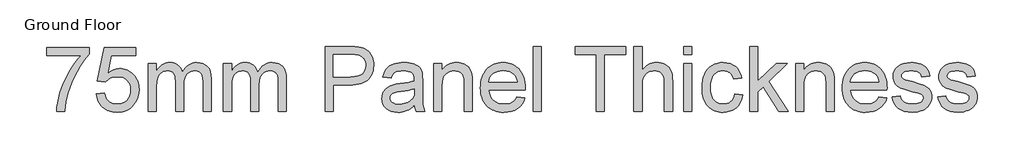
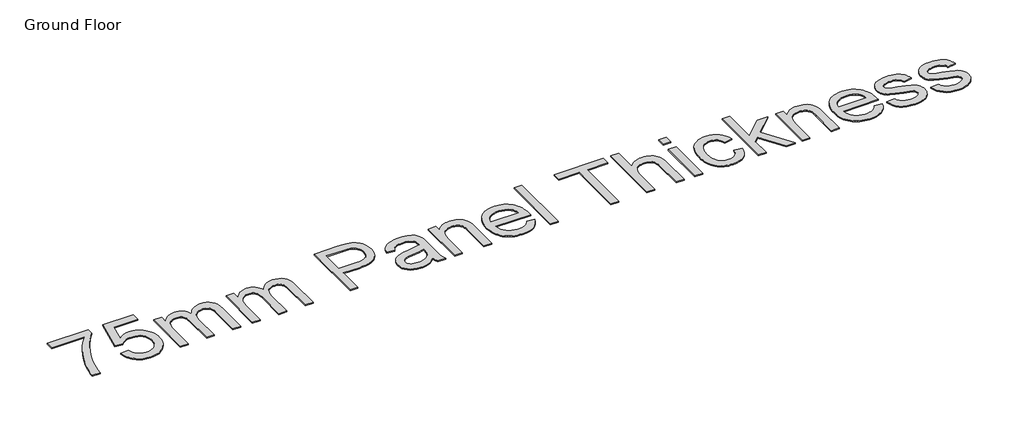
# One storey, part 7 of 12: 1 proxy.
"""IFC4 building model written with IfcOpenShell, lengths in millimetres."""

from ifc_helpers import new_model, si_unit, origin, origin_with_axes, place, context, project, spatial, polyline, outline, extrude, element, save

model = new_model("IFC4")

# Units and contexts
model_context = context("Model", 3, world=origin())
ifc_project = project(units=[si_unit("LENGTHUNIT", "METRE", prefix="MILLI")], contexts=[model_context])

# Site, building, storey
site = spatial("IfcSite", under=ifc_project)
building = spatial("IfcBuilding", under=site)
storey = spatial("IfcBuildingStorey", under=building, Name="Ground Floor", Elevation=0.0)

# Proxy
placement = place(None, origin())
element("IfcBuildingElementProxy", 1, Name="1200mm Arial", ObjectType="1200mm Arial", at=placement, inside=storey, context=model_context, shape_type="SweptSolid", body=[
    extrude(outline(polyline([(26143.8631446, 24020.3942503), (26143.8631446, 24167.3033412), (26915.1358719, 24167.3033412), (26915.1358719, 24048.5135684), (26860.0359962, 23983.6759442), (26805.205119, 23909.3875031), (26750.6432405, 23825.6482453), (26696.3503605, 23732.4581707), (26645.2675303, 23633.8522581), (26600.3358009, 23533.8654861), (26561.5551723, 23432.4978547), (26528.9256446, 23329.7493639), (26509.4860139, 23255.1291579), (26493.9199628, 23177.0299037), (26482.2274912, 23095.4516011), (26474.4085992, 23010.3942503), (26327.4995082, 23010.3942503), (26332.1173172, 23082.5396693), (26343.3883577, 23161.8225173), (26361.3126297, 23248.2427943), (26385.8901332, 23341.8005003), (26416.8339365, 23438.0571586), (26453.8571077, 23532.5742929), (26496.9596467, 23625.351903), (26546.1415537, 23716.3899889), (26599.1880736, 23803.0164981), (26653.8844514, 23882.5593781), (26710.2306872, 23955.0186288), (26768.226781, 24020.3942503), (26143.8631446, 24020.3942503)])), origin_with_axes(), (0.0, 0.0, 1.0), 20.0),
    extrude(outline(polyline([(27043.6813264, 23322.5760684), (27190.5904173, 23340.9397048), (27201.5655594, 23293.7125209), (27217.5620082, 23252.7440372), (27238.5797639, 23218.0342538), (27264.6188264, 23189.5831707), (27295.625396, 23167.4266544), (27331.545673, 23151.6005713), (27372.3796574, 23142.1049214), (27418.1273492, 23138.9397048), (27474.0790537, 23143.3423149), (27523.4313264, 23156.5501452), (27566.1841673, 23178.5631956), (27602.3375764, 23209.3814662), (27631.084558, 23247.4806317), (27651.6181162, 23291.3363667), (27663.9382511, 23340.9486714), (27668.0449628, 23396.3175457), (27664.1982831, 23448.6467361), (27652.658244, 23495.1655571), (27633.4248456, 23535.8740088), (27606.4980878, 23570.7720912), (27571.7883044, 23598.7658767), (27529.2058293, 23618.7614378), (27478.7506624, 23630.7587744), (27420.4228037, 23634.7578866), (27383.0947675, 23633.1618284), (27349.1561134, 23628.3736537), (27318.6068413, 23620.3933625), (27291.4469514, 23609.2209548), (27245.3585281, 23579.8821764), (27208.9540537, 23542.9397048), (27062.0449628, 23561.3033412), (27190.5904173, 24167.3033412), (27759.8631446, 24167.3033412), (27759.8631446, 24020.3942503), (27309.3801901, 24020.3942503), (27246.5421219, 23696.7351594), (27298.3871148, 23733.8928298), (27351.4874344, 23760.434023), (27405.8430807, 23776.3587389), (27461.4540537, 23781.6669775), (27497.9549193, 23780.0216029), (27532.9987092, 23775.085479), (27566.5854236, 23766.8586057), (27598.7150622, 23755.3409832), (27629.3876253, 23740.5326114), (27658.6031127, 23722.4334903), (27686.3615244, 23701.0436199), (27712.6628605, 23676.3630003), (27736.6373589, 23649.0955109), (27757.4152575, 23619.9450315), (27774.9965564, 23588.9115621), (27789.3812554, 23555.9951025), (27800.5693547, 23521.195653), (27808.5608541, 23484.5132133), (27813.3557538, 23445.9477836), (27814.9540537, 23405.4993639), (27809.1974841, 23329.3906991), (27791.9277753, 23258.590273), (27763.1449273, 23193.0980855), (27722.8489401, 23132.9141366), (27693.5998279, 23099.894561), (27661.8041957, 23071.2775954), (27627.4620438, 23047.06324), (27590.5733719, 23027.2514946), (27551.1381801, 23011.8423593), (27509.1564685, 23000.8358341), (27464.6282369, 22994.2319189), (27417.5534855, 22992.0306139), (27341.7407192, 22997.6885507), (27306.5848465, 23004.7609717), (27273.2626475, 23014.6623611), (27241.7741221, 23027.3927188), (27212.1192703, 23042.952045), (27184.2980922, 23061.3403396), (27158.3105878, 23082.5576025), (27134.5826714, 23106.1106698), (27113.5402575, 23131.5063774), (27095.1833461, 23158.7447252), (27079.5119372, 23187.8257133), (27056.2256269, 23251.5156103), (27043.6813264, 23322.5760684)])), origin_with_axes(), (0.0, 0.0, 1.0), 20.0),
    extrude(outline(polyline([(27980.226781, 23010.3942503), (27980.226781, 23873.4851594), (28127.1358719, 23873.4851594), (28127.1358719, 23731.4539094), (28147.6514969, 23765.8408944), (28171.3233719, 23796.6950315), (28198.1514969, 23824.0163206), (28228.1358719, 23847.8047616), (28260.7922994, 23867.0740265), (28295.6365821, 23880.8377872), (28332.6687199, 23889.0960436), (28371.8887128, 23891.8487957), (28414.7670864, 23889.0422439), (28453.592548, 23880.6225883), (28488.3650977, 23866.5898291), (28519.0847355, 23846.9439662), (28545.6617952, 23822.24093), (28568.0066105, 23793.0366508), (28586.1191815, 23759.3311288), (28599.9995082, 23721.1243639), (28625.8323385, 23761.1379026), (28653.5481588, 23795.8163028), (28683.1469692, 23825.1595645), (28714.6287696, 23849.1676878), (28747.9935601, 23867.8406725), (28783.2413406, 23881.1785187), (28820.3721112, 23889.1812265), (28859.3858719, 23891.8487957), (28918.197928, 23887.4103192), (28969.8187554, 23874.0948895), (29014.2483541, 23851.9025067), (29051.4867242, 23820.8331707), (29080.9241354, 23780.5282169), (29101.9508577, 23730.6289804), (29114.5668911, 23671.1354612), (29118.7722355, 23602.0476594), (29118.7722355, 23010.3942503), (28971.8631446, 23010.3942503), (28971.8631446, 23538.9226594), (28968.4558293, 23612.1978724), (28958.2338832, 23661.5860116), (28950.0383932, 23679.4026842), (28939.0811844, 23695.4080997), (28925.3622568, 23709.6022581), (28908.8816105, 23721.9851594), (28890.240009, 23732.027773), (28870.0382156, 23739.2010684), (28824.9540537, 23744.9397048), (28783.3220402, 23741.2633909), (28745.3663406, 23730.2344491), (28711.086955, 23711.8528795), (28680.4838832, 23686.1186821), (28655.3145828, 23652.2786608), (28637.3365111, 23609.5796196), (28626.549668, 23558.0215585), (28622.9540537, 23497.6044775), (28622.9540537, 23010.3942503), (28476.0449628, 23010.3942503), (28476.0449628, 23555.277773), (28473.919874, 23599.7880713), (28467.5446077, 23638.3445344), (28456.9191638, 23670.9471622), (28442.0435423, 23697.5959548), (28422.3259465, 23718.3088454), (28397.1745793, 23733.1037673), (28366.5894408, 23741.9807204), (28330.570531, 23744.9397048), (28301.71595, 23742.9670486), (28273.9732298, 23737.0490798), (28247.3423705, 23727.1857986), (28221.8233719, 23713.3772048), (28198.5818946, 23695.7667645), (28178.7835992, 23674.4979434), (28162.4284855, 23649.5707417), (28149.5165537, 23620.9851594), (28139.7250054, 23587.216871), (28132.7310423, 23546.7415514), (28127.1358719, 23445.6698184), (28127.1358719, 23010.3942503), (27980.226781, 23010.3942503)])), origin_with_axes(), (0.0, 0.0, 1.0), 20.0),
    extrude(outline(polyline([(29339.1358719, 23010.3942503), (29339.1358719, 23873.4851594), (29486.0449628, 23873.4851594), (29486.0449628, 23731.4539094), (29506.5605878, 23765.8408944), (29530.2324628, 23796.6950315), (29557.0605878, 23824.0163206), (29587.0449628, 23847.8047616), (29619.7013904, 23867.0740265), (29654.545673, 23880.8377872), (29691.5778108, 23889.0960436), (29730.7978037, 23891.8487957), (29773.6761773, 23889.0422439), (29812.5016389, 23880.6225883), (29847.2741886, 23866.5898291), (29877.9938264, 23846.9439662), (29904.5708861, 23822.24093), (29926.9157014, 23793.0366508), (29945.0282725, 23759.3311288), (29958.9085992, 23721.1243639), (29984.7414294, 23761.1379026), (30012.4572497, 23795.8163028), (30042.0560601, 23825.1595645), (30073.5378605, 23849.1676878), (30106.902651, 23867.8406725), (30142.1504315, 23881.1785187), (30179.2812021, 23889.1812265), (30218.2949628, 23891.8487957), (30277.1070189, 23887.4103192), (30328.7278463, 23874.0948895), (30373.157445, 23851.9025067), (30410.3958151, 23820.8331707), (30439.8332263, 23780.5282169), (30460.8599486, 23730.6289804), (30473.475982, 23671.1354612), (30477.6813264, 23602.0476594), (30477.6813264, 23010.3942503), (30330.7722355, 23010.3942503), (30330.7722355, 23538.9226594), (30327.3649202, 23612.1978724), (30317.1429742, 23661.5860116), (30308.9474841, 23679.4026842), (30297.9902753, 23695.4080997), (30284.2713477, 23709.6022581), (30267.7907014, 23721.9851594), (30249.1490999, 23732.027773), (30228.9473065, 23739.2010684), (30183.8631446, 23744.9397048), (30142.2311311, 23741.2633909), (30104.2754315, 23730.2344491), (30069.9960459, 23711.8528795), (30039.3929742, 23686.1186821), (30014.2236737, 23652.2786608), (29996.245602, 23609.5796196), (29985.458759, 23558.0215585), (29981.8631446, 23497.6044775), (29981.8631446, 23010.3942503), (29834.9540537, 23010.3942503), (29834.9540537, 23555.277773), (29832.8289649, 23599.7880713), (29826.4536986, 23638.3445344), (29815.8282547, 23670.9471622), (29800.9526332, 23697.5959548), (29781.2350374, 23718.3088454), (29756.0836702, 23733.1037673), (29725.4985317, 23741.9807204), (29689.4796219, 23744.9397048), (29660.6250409, 23742.9670486), (29632.8823207, 23737.0490798), (29606.2514614, 23727.1857986), (29580.7324628, 23713.3772048), (29557.4909855, 23695.7667645), (29537.6926901, 23674.4979434), (29521.3375764, 23649.5707417), (29508.4256446, 23620.9851594), (29498.6340963, 23587.216871), (29491.6401332, 23546.7415514), (29486.0449628, 23445.6698184), (29486.0449628, 23010.3942503), (29339.1358719, 23010.3942503)])), origin_with_axes(), (0.0, 0.0, 1.0), 20.0),
    extrude(outline(polyline([(31175.4995082, 23010.3942503), (31175.4995082, 24185.6669775), (31611.0620082, 24185.6669775), (31712.492406, 24182.8693923), (31786.664281, 24174.4766366), (31827.5430984, 24165.6624498), (31864.9608009, 24153.5664804), (31898.9173882, 24138.1887282), (31929.4128605, 24119.5291934), (31956.7700161, 24097.2023113), (31981.3116531, 24070.8225173), (32003.0377717, 24040.3898113), (32021.9483719, 24005.9041934), (32037.2633577, 23968.5044243), (32048.2026332, 23929.3292645), (32054.7661986, 23888.378714), (32056.9540537, 23845.652773), (32051.0450516, 23773.507354), (32043.6587989, 23739.600083), (32033.3180452, 23707.1364378), (32020.0227904, 23676.1164182), (32003.7730345, 23646.5400244), (31984.5687776, 23618.4072563), (31962.4100196, 23591.7181139), (31936.3956153, 23567.3737425), (31905.6244195, 23546.2752872), (31870.0964321, 23528.4227481), (31829.8116531, 23513.8161253), (31784.7700826, 23502.4554186), (31734.9717206, 23494.3406281), (31680.416567, 23489.4717538), (31621.1046219, 23487.8487957), (31322.4085992, 23487.8487957), (31322.4085992, 23010.3942503), (31175.4995082, 23010.3942503)]), holes=[polyline([(31322.4085992, 23634.7578866), (31629.7125764, 23634.7578866), (31700.3695367, 23638.1293355), (31759.9796219, 23648.2436821), (31808.5428321, 23665.1009264), (31846.0591673, 23688.7010684), (31874.0529529, 23718.4164449), (31894.0485139, 23753.6193923), (31906.0458506, 23794.3099108), (31910.0449628, 23840.4880003), (31907.6867419, 23874.7763525), (31900.6120793, 23906.4823184), (31888.8209749, 23935.605898), (31872.3134287, 23962.1470912), (31851.9681695, 23985.2451025), (31828.6639259, 24004.0391366), (31802.4006979, 24018.5291934), (31773.1784855, 24028.715273), (31716.5094514, 24036.2472332), (31626.2693946, 24038.7578866), (31322.4085992, 24038.7578866), (31322.4085992, 23634.7578866)])]), origin_with_axes(), (0.0, 0.0, 1.0), 20.0),
    extrude(outline(polyline([(32791.4995082, 23120.5760684), (32756.6641922, 23087.8837744), (32721.3088122, 23060.3921196), (32685.4333683, 23038.101104), (32649.0378605, 23021.0107275), (32611.7098243, 23008.3319278), (32573.0367952, 22999.2756423), (32533.0187732, 22993.841871), (32491.6557582, 22992.0306139), (32426.2442703, 22996.3883909), (32368.8848065, 23009.4617219), (32319.5773669, 23031.2506068), (32278.3219514, 23061.7550457), (32245.7462234, 23099.0382488), (32222.4778463, 23141.1634264), (32208.51682, 23188.1305784), (32203.8631446, 23239.9397048), (32205.620602, 23271.0897403), (32210.8929742, 23300.8409832), (32219.6802611, 23329.1934335), (32231.9824628, 23356.1470912), (32247.1450161, 23381.1101594), (32264.5133577, 23403.4908412), (32284.0874877, 23423.2891366), (32305.867406, 23440.5050457), (32354.4664827, 23468.480898), (32408.7324628, 23488.7095912), (32461.5996503, 23499.971665), (32535.8432582, 23510.8033412), (32686.0520651, 23534.0448184), (32744.0481588, 23547.1719491), (32790.6387128, 23561.3033412), (32791.4995082, 23594.0135684), (32788.9709216, 23629.6289804), (32781.3851617, 23659.5774889), (32768.7422284, 23683.859094), (32751.0421219, 23702.4737957), (32720.4480168, 23721.0526309), (32683.1827469, 23734.3232275), (32639.2463122, 23742.2855855), (32588.6387128, 23744.9397048), (32541.5818946, 23743.1732808), (32501.1245082, 23737.8740088), (32467.2665537, 23729.0418888), (32440.008031, 23716.6769207), (32417.6094159, 23699.8107098), (32398.3311844, 23677.4748611), (32382.1733364, 23649.6693746), (32369.1358719, 23616.3942503), (32222.226781, 23634.7578866), (32233.4081553, 23677.0803298), (32247.7278463, 23715.0987957), (32265.1858541, 23748.8132844), (32285.7821787, 23778.2237957), (32310.4045154, 23803.9221267), (32339.9405594, 23826.5000741), (32374.3903108, 23845.957638), (32413.7537696, 23862.2948184), (32457.2329067, 23875.2246835), (32504.0296929, 23884.4603014), (32554.1441283, 23890.0016721), (32607.5762128, 23891.8487957), (32659.8067703, 23890.216871), (32706.8904884, 23885.3210969), (32748.8273669, 23877.1614733), (32785.617406, 23865.7380003), (32817.5654706, 23851.8487069), (32844.9764259, 23836.2916224), (32867.8502717, 23819.0667467), (32886.1870082, 23800.1740798), (32901.0536631, 23779.1473575), (32913.5172639, 23755.5203156), (32931.2353037, 23700.465273), (32936.6152753, 23649.6783412), (32938.4085992, 23571.9198184), (32938.4085992, 23389.1442503), (32940.273656, 23229.9329577), (32945.8688264, 23133.918398), (32956.9157014, 23070.8292645), (32975.1358719, 23010.3942503), (32828.226781, 23010.3942503), (32815.1713832, 23034.9269207), (32804.6983719, 23061.4681139), (32791.4995082, 23120.5760684)]), holes=[polyline([(32791.4995082, 23414.3942503), (32747.0968094, 23401.6795841), (32692.7949628, 23389.9333128), (32554.4938264, 23369.3459548), (32478.2775622, 23358.0838809), (32428.1003605, 23345.5306139), (32395.2108009, 23329.2472332), (32370.8574628, 23306.7948184), (32355.7935423, 23279.8949605), (32350.7722355, 23250.2692503), (32353.5070544, 23227.4402375), (32361.7115111, 23206.5838809), (32375.3856055, 23187.7001807), (32394.5293378, 23170.7891366), (32418.9633754, 23156.8550102), (32448.5083861, 23146.9020628), (32483.1643698, 23140.9302943), (32522.9313264, 23138.9397048), (32563.5321787, 23141.1365265), (32601.8375764, 23147.7269917), (32637.8475196, 23158.7111004), (32671.5620082, 23174.0888525), (32701.976781, 23192.5869882), (32728.0875764, 23212.9322474), (32749.8943946, 23235.1246302), (32767.3972355, 23259.1641366), (32777.5653818, 23280.684023), (32784.8283435, 23306.7948184), (32789.1861205, 23337.496523), (32790.6387128, 23372.7891366), (32791.4995082, 23414.3942503)])]), origin_with_axes(), (0.0, 0.0, 1.0), 20.0),
    extrude(outline(polyline([(33140.4085992, 23010.3942503), (33140.4085992, 23873.4851594), (33287.3176901, 23873.4851594), (33287.3176901, 23752.9737957), (33311.5544621, 23785.5226238), (33338.3556872, 23813.7316082), (33367.7213655, 23837.6007488), (33399.6514969, 23857.1300457), (33434.1460814, 23872.3194988), (33471.205119, 23883.1691082), (33510.8286098, 23889.6788738), (33553.0165537, 23891.8487957), (33589.9859252, 23890.100305), (33625.4309713, 23884.8548327), (33659.3516922, 23876.1123788), (33691.7480878, 23863.8729434), (33721.3917313, 23848.7910898), (33747.0541957, 23831.5213809), (33768.7354813, 23812.063817), (33786.4355878, 23790.418398), (33813.1561134, 23740.671594), (33830.4796219, 23682.3885684), (33836.2899912, 23626.6520628), (33838.226781, 23540.3573184), (33838.226781, 23010.3942503), (33691.3176901, 23010.3942503), (33691.3176901, 23520.559023), (33687.0854457, 23596.5242219), (33681.7951404, 23626.2754648), (33674.3887128, 23650.5391366), (33664.3012661, 23670.9740621), (33650.9679031, 23689.2390656), (33634.388624, 23705.3341473), (33614.5634287, 23719.2593071), (33592.1737803, 23730.4944811), (33567.9011418, 23738.5196054), (33541.7455132, 23743.33468), (33513.7068946, 23744.9397048), (33469.0979635, 23741.3351238), (33427.6632156, 23730.5213809), (33389.402651, 23712.4984761), (33354.3162696, 23687.2664094), (33338.6134775, 23671.2296107), (33325.0043911, 23651.9558625), (33313.4890102, 23629.4451647), (33304.067335, 23603.6975173), (33291.5051013, 23542.4913738), (33287.3176901, 23468.3374321), (33287.3176901, 23010.3942503), (33140.4085992, 23010.3942503)])), origin_with_axes(), (0.0, 0.0, 1.0), 20.0),
    extrude(outline(polyline([(34644.5051901, 23267.4851594), (34788.5449628, 23249.121523), (34766.4601794, 23191.4302943), (34736.6461702, 23140.5895628), (34699.1029351, 23096.5993284), (34653.8304742, 23059.4595912), (34601.2950516, 23029.9594136), (34541.9629315, 23008.8878582), (34475.8341141, 22996.244925), (34402.9085992, 22992.0306139), (34356.0893964, 22993.848596), (34311.7539472, 22999.3025422), (34269.9022515, 23008.3924525), (34230.5343094, 23021.118327), (34193.6501208, 23037.4801656), (34159.2496858, 23057.4779683), (34127.3330043, 23081.1117352), (34097.9000764, 23108.3814662), (34071.470966, 23138.9329798), (34048.5657369, 23172.4120947), (34029.1843893, 23208.8188108), (34013.326923, 23248.1531281), (34000.9933381, 23290.4150466), (33992.1836347, 23335.6045663), (33986.8978126, 23383.7216872), (33985.1358719, 23434.7664094), (33986.9157458, 23487.548414), (33992.2553676, 23537.2907346), (34001.1547373, 23583.9933714), (34013.6138548, 23627.6563241), (34029.6327203, 23668.2795929), (34049.2113335, 23705.8631778), (34072.3496947, 23740.4070787), (34099.0478037, 23771.9112957), (34128.5838477, 23800.0216473), (34160.2360139, 23824.383952), (34194.0043023, 23844.9982098), (34229.8887128, 23861.8644207), (34267.8892455, 23874.9825848), (34308.0059003, 23884.352702), (34350.2386773, 23889.9747723), (34394.5875764, 23891.8487957), (34437.4861249, 23889.9792556), (34478.380634, 23884.3706352), (34517.2711036, 23875.0229346), (34554.1575338, 23861.9361537), (34589.0399246, 23845.1102925), (34621.918276, 23824.5453511), (34652.792588, 23800.2413295), (34681.6628605, 23772.1982275), (34707.7893476, 23740.7657435), (34730.432303, 23706.2935755), (34749.5917268, 23668.7817236), (34765.267619, 23628.2301878), (34777.4599797, 23584.6389679), (34786.1688087, 23538.0080642), (34791.3941061, 23488.3374765), (34793.1358719, 23435.6272048), (34792.2750764, 23396.0306139), (34132.0449628, 23396.0306139), (34140.5542845, 23337.4068568), (34157.4742952, 23286.0639946), (34182.8049948, 23242.0020273), (34216.5463832, 23205.2209548), (34256.8334038, 23176.2229079), (34301.8009997, 23155.5100173), (34351.4491709, 23143.0822829), (34405.7779173, 23138.9397048), (34446.4146361, 23140.8585613), (34483.9668378, 23146.6151309), (34518.4345225, 23156.2094136), (34549.8176901, 23169.6414094), (34578.1163406, 23187.2697829), (34603.3304742, 23209.4531991), (34625.4600906, 23236.1916579), (34644.5051901, 23267.4851594)]), holes=[polyline([(34132.0449628, 23542.9397048), (34646.226781, 23542.9397048), (34638.6768875, 23584.508952), (34626.3567526, 23620.5547616), (34609.2663761, 23651.0771338), (34587.4057582, 23676.0760684), (34547.3429031, 23706.2039094), (34501.7566105, 23727.7237957), (34450.6468804, 23740.6357275), (34394.0137128, 23744.9397048), (34342.3570189, 23741.5054896), (34294.986369, 23731.202844), (34251.9017632, 23714.031768), (34213.1032014, 23689.9922616), (34180.5454067, 23660.1961856), (34156.183102, 23625.7554008), (34140.0162874, 23586.6699072), (34132.0449628, 23542.9397048)])]), origin_with_axes(), (0.0, 0.0, 1.0), 20.0),
    extrude(outline(polyline([(34940.0449628, 23010.3942503), (34940.0449628, 24185.6669775), (35086.9540537, 24185.6669775), (35086.9540537, 23010.3942503), (34940.0449628, 23010.3942503)])), origin_with_axes(), (0.0, 0.0, 1.0), 20.0),
    extrude(outline(polyline([(36078.5904173, 23010.3942503), (36078.5904173, 24038.7578866), (35692.9540537, 24038.7578866), (35692.9540537, 24185.6669775), (36611.1358719, 24185.6669775), (36611.1358719, 24038.7578866), (36225.4995082, 24038.7578866), (36225.4995082, 23010.3942503), (36078.5904173, 23010.3942503)])), origin_with_axes(), (0.0, 0.0, 1.0), 20.0),
    extrude(outline(polyline([(36758.0449628, 23010.3942503), (36758.0449628, 24185.6669775), (36904.9540537, 24185.6669775), (36904.9540537, 23753.5476594), (36931.1051989, 23785.9619882), (36958.9151688, 23814.0544065), (36988.3839631, 23837.8249143), (37019.5115821, 23857.2735116), (37052.2980256, 23872.4001984), (37086.7432938, 23883.2049747), (37122.8473864, 23889.6878405), (37160.6103037, 23891.8487957), (37206.5373279, 23889.4905748), (37249.3439685, 23882.4159122), (37289.0302256, 23870.6248078), (37325.5960992, 23854.1172616), (37358.1090608, 23833.4492041), (37385.6365821, 23809.1765656), (37408.1786631, 23781.2993461), (37425.7353037, 23749.8175457), (37438.9162341, 23712.7854079), (37448.3311844, 23668.2571764), (37453.9801546, 23616.2328511), (37455.8631446, 23556.7124321), (37455.8631446, 23010.3942503), (37308.9540537, 23010.3942503), (37308.9540537, 23541.5050457), (37306.0309358, 23591.1083838), (37297.2615821, 23633.4666934), (37282.6459926, 23668.5799747), (37262.1841673, 23696.4482275), (37236.3603037, 23717.6632488), (37205.6585992, 23732.8168355), (37170.0790537, 23741.9089875), (37129.6216673, 23744.9397048), (37098.1040004, 23742.8953156), (37067.5367952, 23736.762148), (37037.9200516, 23726.540202), (37009.2537696, 23712.2294775), (36983.0891744, 23694.4217716), (36960.9774912, 23673.7088809), (36942.9187199, 23650.0908057), (36928.9128605, 23623.5675457), (36918.4308825, 23592.9196409), (36910.9437554, 23556.9276309), (36906.4514791, 23515.5915159), (36904.9540537, 23468.9112957), (36904.9540537, 23010.3942503), (36758.0449628, 23010.3942503)])), origin_with_axes(), (0.0, 0.0, 1.0), 20.0),
    extrude(outline(polyline([(37657.8631446, 24038.7578866), (37657.8631446, 24185.6669775), (37804.7722355, 24185.6669775), (37804.7722355, 24038.7578866), (37657.8631446, 24038.7578866)])), origin_with_axes(), (0.0, 0.0, 1.0), 20.0),
    extrude(outline(polyline([(37657.8631446, 23010.3942503), (37657.8631446, 23873.4851594), (37804.7722355, 23873.4851594), (37804.7722355, 23010.3942503), (37657.8631446, 23010.3942503)])), origin_with_axes(), (0.0, 0.0, 1.0), 20.0),
    extrude(outline(polyline([(38576.0449628, 23322.5760684), (38722.9540537, 23304.2124321), (38706.9755381, 23234.8914981), (38681.9945367, 23173.5508554), (38648.0110494, 23120.1905038), (38605.0250764, 23074.8104434), (38554.8478747, 23038.594268), (38499.2907014, 23012.7255713), (38438.3535565, 22997.2043532), (38372.0364401, 22992.0306139), (38329.7745216, 22993.835146), (38289.6421752, 22999.2487425), (38251.6394008, 23008.2714031), (38215.7661986, 23020.9031281), (38182.0225684, 23037.1439173), (38150.4085104, 23056.9937709), (38120.9240244, 23080.4526887), (38093.5691105, 23107.5206707), (38068.9221157, 23137.9601016), (38047.5613868, 23171.533366), (38029.4869239, 23208.2404639), (38014.698727, 23248.0813952), (38003.1967961, 23291.0561599), (37994.9811311, 23337.1647581), (37990.0517321, 23386.4071897), (37988.4085992, 23438.7834548), (37991.215151, 23506.3289981), (37999.6348065, 23569.5167645), (38013.6675658, 23628.3467538), (38033.3134287, 23682.8189662), (38058.7068946, 23731.839474), (38089.9824628, 23774.3143497), (38127.1401332, 23810.2435933), (38170.179906, 23839.6272048), (38217.1560246, 23862.4741508), (38266.1227327, 23878.793398), (38317.0800303, 23888.5849463), (38370.0279173, 23891.8487957), (38435.2062732, 23887.3654861), (38494.1617952, 23873.9155571), (38546.8944834, 23851.4990088), (38593.4043378, 23820.1158412), (38632.9022959, 23780.4833838), (38664.5992952, 23733.3189662), (38688.4953357, 23678.6225883), (38704.5904173, 23616.3942503), (38557.6813264, 23598.0306139), (38546.2130203, 23632.345866), (38531.0325338, 23662.1240088), (38512.1398669, 23687.3650422), (38489.5350196, 23708.0689662), (38463.7918555, 23724.1999143), (38435.4842384, 23735.7220202), (38404.612168, 23742.6352836), (38371.1756446, 23744.9397048), (38321.2584749, 23740.4025954), (38276.2370793, 23726.7912673), (38236.1114578, 23704.1057204), (38200.8816105, 23672.3459548), (38185.5150667, 23652.8794243), (38172.1973953, 23630.7767077), (38151.7086702, 23578.6627162), (38139.4154351, 23516.0039804), (38135.3176901, 23442.8005003), (38139.3257689, 23368.494126), (38151.3500054, 23305.109094), (38171.3903996, 23252.6454044), (38184.4166558, 23230.5090629), (38199.4469514, 23211.1030571), (38233.9774024, 23179.5315905), (38273.439494, 23156.9805429), (38317.8332263, 23143.4499143), (38367.1585992, 23138.9397048), (38406.9076226, 23141.7552233), (38443.2313975, 23150.2017787), (38476.1299237, 23164.279371), (38505.6032014, 23183.9880003), (38530.8263016, 23209.5428653), (38550.9742952, 23241.159165), (38566.0471823, 23278.8368994), (38576.0449628, 23322.5760684)])), origin_with_axes(), (0.0, 0.0, 1.0), 20.0),
    extrude(outline(polyline([(38851.4995082, 23010.3942503), (38851.4995082, 24185.6669775), (38998.4085992, 24185.6669775), (38998.4085992, 23554.1300457), (39327.8063264, 23873.4851594), (39530.9540537, 23873.4851594), (39197.539281, 23550.1130003), (39549.3176901, 23010.3942503), (39377.7324628, 23010.3942503), (39092.2353037, 23447.965273), (38998.4085992, 23357.0078866), (38998.4085992, 23010.3942503), (38851.4995082, 23010.3942503)])), origin_with_axes(), (0.0, 0.0, 1.0), 20.0),
    extrude(outline(polyline([(39677.8631446, 23010.3942503), (39677.8631446, 23873.4851594), (39824.7722355, 23873.4851594), (39824.7722355, 23752.9737957), (39849.0090075, 23785.5226238), (39875.8102327, 23813.7316082), (39905.1759109, 23837.6007488), (39937.1060423, 23857.1300457), (39971.6006269, 23872.3194988), (40008.6596645, 23883.1691082), (40048.2831553, 23889.6788738), (40090.4710992, 23891.8487957), (40127.4404706, 23890.100305), (40162.8855168, 23884.8548327), (40196.8062377, 23876.1123788), (40229.2026332, 23863.8729434), (40258.8462767, 23848.7910898), (40284.5087412, 23831.5213809), (40306.1900267, 23812.063817), (40323.8901332, 23790.418398), (40350.6106588, 23740.671594), (40367.9341673, 23682.3885684), (40373.7445367, 23626.6520628), (40375.6813264, 23540.3573184), (40375.6813264, 23010.3942503), (40228.7722355, 23010.3942503), (40228.7722355, 23520.559023), (40224.5399912, 23596.5242219), (40219.2496858, 23626.2754648), (40211.8432582, 23650.5391366), (40201.7558115, 23670.9740621), (40188.4224486, 23689.2390656), (40171.8431695, 23705.3341473), (40152.0179742, 23719.2593071), (40129.6283257, 23730.4944811), (40105.3556872, 23738.5196054), (40079.2000587, 23743.33468), (40051.1614401, 23744.9397048), (40006.552509, 23741.3351238), (39965.1177611, 23730.5213809), (39926.8571965, 23712.4984761), (39891.7708151, 23687.2664094), (39876.068023, 23671.2296107), (39862.4589365, 23651.9558625), (39850.9435557, 23629.4451647), (39841.5218804, 23603.6975173), (39828.9596467, 23542.4913738), (39824.7722355, 23468.3374321), (39824.7722355, 23010.3942503), (39677.8631446, 23010.3942503)])), origin_with_axes(), (0.0, 0.0, 1.0), 20.0),
    extrude(outline(polyline([(41181.9597355, 23267.4851594), (41325.9995082, 23249.121523), (41303.9147249, 23191.4302943), (41274.1007156, 23140.5895628), (41236.5574805, 23096.5993284), (41191.2850196, 23059.4595912), (41138.749597, 23029.9594136), (41079.417477, 23008.8878582), (41013.2886595, 22996.244925), (40940.3631446, 22992.0306139), (40893.5439418, 22993.848596), (40849.2084926, 22999.3025422), (40807.356797, 23008.3924525), (40767.9888548, 23021.118327), (40731.1046663, 23037.4801656), (40696.7042313, 23057.4779683), (40664.7875498, 23081.1117352), (40635.3546219, 23108.3814662), (40608.9255114, 23138.9329798), (40586.0202824, 23172.4120947), (40566.6389347, 23208.8188108), (40550.7814685, 23248.1531281), (40538.4478836, 23290.4150466), (40529.6381801, 23335.6045663), (40524.352358, 23383.7216872), (40522.5904173, 23434.7664094), (40524.3702913, 23487.548414), (40529.7099131, 23537.2907346), (40538.6092828, 23583.9933714), (40551.0684003, 23627.6563241), (40567.0872657, 23668.2795929), (40586.665879, 23705.8631778), (40609.8042401, 23740.4070787), (40636.5023492, 23771.9112957), (40666.0383932, 23800.0216473), (40697.6905594, 23824.383952), (40731.4588477, 23844.9982098), (40767.3432582, 23861.8644207), (40805.3437909, 23874.9825848), (40845.4604457, 23884.352702), (40887.6932227, 23889.9747723), (40932.0421219, 23891.8487957), (40974.9406704, 23889.9792556), (41015.8351794, 23884.3706352), (41054.7256491, 23875.0229346), (41091.6120793, 23861.9361537), (41126.4944701, 23845.1102925), (41159.3728215, 23824.5453511), (41190.2471334, 23800.2413295), (41219.117406, 23772.1982275), (41245.243893, 23740.7657435), (41267.8868484, 23706.2935755), (41287.0462723, 23668.7817236), (41302.7221645, 23628.2301878), (41314.9145251, 23584.6389679), (41323.6233541, 23538.0080642), (41328.8486515, 23488.3374765), (41330.5904173, 23435.6272048), (41329.7296219, 23396.0306139), (40669.4995082, 23396.0306139), (40678.00883, 23337.4068568), (40694.9288406, 23286.0639946), (40720.2595402, 23242.0020273), (40754.0009287, 23205.2209548), (40794.2879493, 23176.2229079), (40839.2555452, 23155.5100173), (40888.9037163, 23143.0822829), (40943.2324628, 23138.9397048), (40983.8691815, 23140.8585613), (41021.4213832, 23146.6151309), (41055.8890679, 23156.2094136), (41087.2722355, 23169.6414094), (41115.5708861, 23187.2697829), (41140.7850196, 23209.4531991), (41162.9146361, 23236.1916579), (41181.9597355, 23267.4851594)]), holes=[polyline([(40669.4995082, 23542.9397048), (41183.6813264, 23542.9397048), (41176.131433, 23584.508952), (41163.811298, 23620.5547616), (41146.7209216, 23651.0771338), (41124.8603037, 23676.0760684), (41084.7974486, 23706.2039094), (41039.211156, 23727.7237957), (40988.1014259, 23740.6357275), (40931.4682582, 23744.9397048), (40879.8115644, 23741.5054896), (40832.4409145, 23731.202844), (40789.3563087, 23714.031768), (40750.5577469, 23689.9922616), (40717.9999521, 23660.1961856), (40693.6376475, 23625.7554008), (40677.4708328, 23586.6699072), (40669.4995082, 23542.9397048)])]), origin_with_axes(), (0.0, 0.0, 1.0), 20.0),
    extrude(outline(polyline([(41422.4085992, 23267.4851594), (41569.3176901, 23285.8487957), (41578.1946432, 23252.3495059), (41592.4874344, 23223.0107275), (41612.1960636, 23197.8324605), (41637.320531, 23176.8147048), (41667.9325693, 23160.2443923), (41704.1039117, 23148.4084548), (41745.834558, 23141.3068923), (41793.1245082, 23138.9397048), (41840.3606588, 23141.1096267), (41881.0691105, 23147.6193923), (41915.2498634, 23158.4690017), (41942.9029173, 23173.6584548), (41964.2434713, 23191.7710258), (41979.4867242, 23211.3899889), (41988.6326759, 23232.515344), (41991.6813264, 23255.1470912), (41988.6147426, 23274.9812531), (41979.4149912, 23292.5916934), (41964.0820722, 23307.9784122), (41942.6159855, 23321.1414094), (41887.5968094, 23339.7919775), (41791.4029173, 23363.0334548), (41657.3340253, 23401.8051167), (41570.1784855, 23434.9098753), (41540.2568769, 23451.5070876), (41514.1909145, 23471.0274179), (41491.9805984, 23493.470866), (41473.6259287, 23518.8374321), (41459.2524379, 23546.3649534), (41448.9856588, 23575.2912673), (41442.8255913, 23605.6163738), (41440.7722355, 23637.340273), (41442.4220935, 23666.3472865), (41447.3716673, 23694.2603724), (41455.6209571, 23721.0795308), (41467.1699628, 23746.8047616), (41481.5703534, 23770.916001), (41498.373798, 23792.8931849), (41517.5802966, 23812.7363135), (41539.1898492, 23830.4453866), (41579.754835, 23854.0813952), (41632.586156, 23873.9155571), (41693.6667668, 23887.3654861), (41758.9796219, 23891.8487957), (41808.3498279, 23890.0465052), (41854.5996503, 23884.6396338), (41897.7290892, 23875.6281814), (41937.7381446, 23863.012148), (41973.6763548, 23847.3205642), (42004.5932582, 23829.0824605), (42030.4888548, 23808.2978369), (42051.3631446, 23784.9666934), (42068.2921219, 23758.2730677), (42082.351781, 23727.4009974), (42093.5421219, 23692.3504825), (42101.8631446, 23653.121523), (41954.9540537, 23634.7578866), (41947.951124, 23659.2995237), (41936.411085, 23680.9897758), (41920.3339365, 23699.828643), (41899.7196787, 23715.8161253), (41874.4786453, 23728.5576913), (41844.5211702, 23737.6588099), (41809.8472533, 23743.1194811), (41770.4568946, 23744.9397048), (41724.7630026, 23743.2001807), (41686.0989401, 23737.9816082), (41654.4647071, 23729.2839875), (41629.8603037, 23717.1073184), (41611.4070011, 23702.6172616), (41598.2260707, 23686.9794775), (41590.3175125, 23670.1939662), (41587.6813264, 23652.2607275), (41592.0570367, 23629.6648469), (41605.1841673, 23609.5078866), (41627.6365821, 23591.502915), (41659.9881446, 23577.0845912), (41786.5250764, 23545.809023), (41916.3258577, 23507.4318923), (42002.1543378, 23476.6584548), (42032.3539117, 23461.6483341), (42059.1103037, 23443.5895628), (42082.4235139, 23422.4821409), (42102.2935423, 23398.3260684), (42118.1734252, 23371.085479), (42129.5161986, 23340.7245059), (42136.3218627, 23307.2431494), (42138.5904173, 23270.6414094), (42135.9273314, 23233.8782702), (42127.9380736, 23198.1911253), (42114.6226439, 23163.5799747), (42095.9810423, 23130.0448184), (42072.318134, 23098.9216828), (42043.9387838, 23071.546594), (42010.8429919, 23047.9195521), (41973.0307582, 23028.0405571), (41931.533244, 23012.2862069), (41887.3816105, 23001.0330997), (41840.5758577, 22994.2812353), (41791.1159855, 22992.0306139), (41712.0483364, 22996.3704577), (41642.9874344, 23009.3899889), (41583.9332796, 23031.0892077), (41534.8858719, 23061.4681139), (41494.8230168, 23100.3832417), (41462.7225196, 23147.6911253), (41438.5843804, 23203.3917645), (41422.4085992, 23267.4851594)])), origin_with_axes(), (0.0, 0.0, 1.0), 20.0),
    extrude(outline(polyline([(42248.7722355, 23267.4851594), (42395.6813264, 23285.8487957), (42404.5582796, 23252.3495059), (42418.8510707, 23223.0107275), (42438.5597, 23197.8324605), (42463.6841673, 23176.8147048), (42494.2962057, 23160.2443923), (42530.467548, 23148.4084548), (42572.1981943, 23141.3068923), (42619.4881446, 23138.9397048), (42666.7242952, 23141.1096267), (42707.4327469, 23147.6193923), (42741.6134997, 23158.4690017), (42769.2665537, 23173.6584548), (42790.6071077, 23191.7710258), (42805.8503605, 23211.3899889), (42814.9963122, 23232.515344), (42818.0449628, 23255.1470912), (42814.978379, 23274.9812531), (42805.7786276, 23292.5916934), (42790.4457085, 23307.9784122), (42768.9796219, 23321.1414094), (42713.9604457, 23339.7919775), (42617.7665537, 23363.0334548), (42483.6976617, 23401.8051167), (42396.5421219, 23434.9098753), (42366.6205132, 23451.5070876), (42340.5545509, 23471.0274179), (42318.3442348, 23493.470866), (42299.9895651, 23518.8374321), (42285.6160743, 23546.3649534), (42275.3492952, 23575.2912673), (42269.1892277, 23605.6163738), (42267.1358719, 23637.340273), (42268.7857298, 23666.3472865), (42273.7353037, 23694.2603724), (42281.9845935, 23721.0795308), (42293.5335992, 23746.8047616), (42307.9339898, 23770.916001), (42324.7374344, 23792.8931849), (42343.943933, 23812.7363135), (42365.5534855, 23830.4453866), (42406.1184713, 23854.0813952), (42458.9497923, 23873.9155571), (42520.0304031, 23887.3654861), (42585.3432582, 23891.8487957), (42634.7134642, 23890.0465052), (42680.9632867, 23884.6396338), (42724.0927256, 23875.6281814), (42764.101781, 23863.012148), (42800.0399912, 23847.3205642), (42830.9568946, 23829.0824605), (42856.8524912, 23808.2978369), (42877.726781, 23784.9666934), (42894.6557582, 23758.2730677), (42908.7154173, 23727.4009974), (42919.9057582, 23692.3504825), (42928.226781, 23653.121523), (42781.3176901, 23634.7578866), (42774.3147604, 23659.2995237), (42762.7747213, 23680.9897758), (42746.6975729, 23699.828643), (42726.0833151, 23715.8161253), (42700.8422817, 23728.5576913), (42670.8848065, 23737.6588099), (42636.2108896, 23743.1194811), (42596.820531, 23744.9397048), (42551.1266389, 23743.2001807), (42512.4625764, 23737.9816082), (42480.8283435, 23729.2839875), (42456.2239401, 23717.1073184), (42437.7706375, 23702.6172616), (42424.5897071, 23686.9794775), (42416.6811489, 23670.1939662), (42414.0449628, 23652.2607275), (42418.420673, 23629.6648469), (42431.5478037, 23609.5078866), (42454.0002185, 23591.502915), (42486.351781, 23577.0845912), (42612.8887128, 23545.809023), (42742.689494, 23507.4318923), (42828.5179742, 23476.6584548), (42858.717548, 23461.6483341), (42885.4739401, 23443.5895628), (42908.7871503, 23422.4821409), (42928.6571787, 23398.3260684), (42944.5370615, 23371.085479), (42955.879835, 23340.7245059), (42962.685499, 23307.2431494), (42964.9540537, 23270.6414094), (42962.2909678, 23233.8782702), (42954.30171, 23198.1911253), (42940.9862803, 23163.5799747), (42922.3446787, 23130.0448184), (42898.6817703, 23098.9216828), (42870.3024202, 23071.546594), (42837.2066283, 23047.9195521), (42799.3943946, 23028.0405571), (42757.8968804, 23012.2862069), (42713.7452469, 23001.0330997), (42666.939494, 22994.2812353), (42617.4796219, 22992.0306139), (42538.4119727, 22996.3704577), (42469.3510707, 23009.3899889), (42410.2969159, 23031.0892077), (42361.2495082, 23061.4681139), (42321.1866531, 23100.3832417), (42289.086156, 23147.6911253), (42264.9480168, 23203.3917645), (42248.7722355, 23267.4851594)])), origin_with_axes(), (0.0, 0.0, 1.0), 20.0),
])

save(model, "model.ifc")
